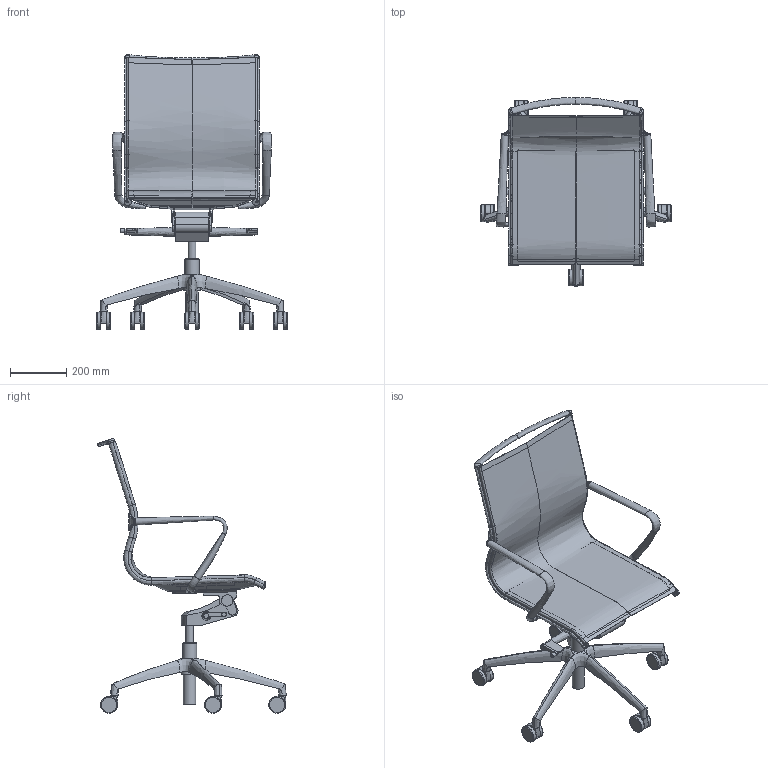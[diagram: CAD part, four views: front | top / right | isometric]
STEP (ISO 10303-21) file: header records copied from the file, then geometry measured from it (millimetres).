
FILE_DESCRIPTION(/* description */ (''),/* implementation_level */ '2;1');
FILE_NAME(/* name */ 'PL5741~1',/* time_stamp */ '2018-04-10T15:15:52+02:00',/* author */ (''),/* organization */ (''),/* preprocessor_version */ 'ST-DEVELOPER v16.5',/* originating_system */ '',/* authorisation */ '');
FILE_SCHEMA (('AUTOMOTIVE_DESIGN'));
Length unit declared in the file: millimetre
Products named in the file (1): Document
Bounding box: 677.7 x 669.48 x 974.8 mm (x, y, z)
Volume: 9695815.9 mm3; surface area: 1724157.5 mm2
Topology: 15 solids, 43 shells, 413 faces, 1031 edges, 658 vertices
Faces by surface type: bspline 287, plane 126
Entity records: 25993 total; most frequent: CARTESIAN_POINT 20009, ORIENTED_EDGE 1867, EDGE_CURVE 1008, VERTEX_POINT 652, B_SPLINE_CURVE_WITH_KNOTS 442, EDGE_LOOP 417, ADVANCED_FACE 413, FACE_OUTER_BOUND 413
